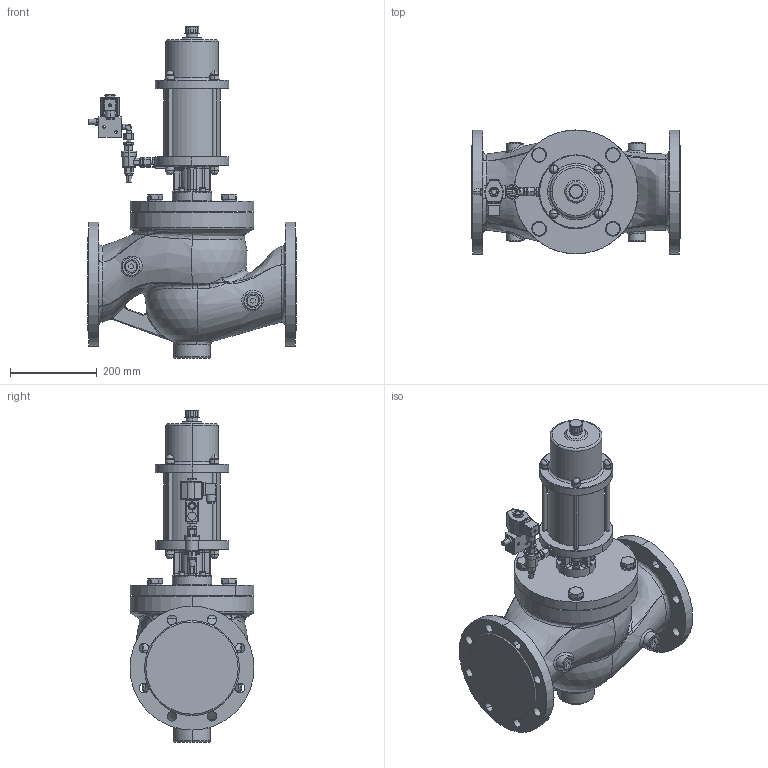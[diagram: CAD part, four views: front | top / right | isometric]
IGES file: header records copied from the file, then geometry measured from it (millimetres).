
Global section: file name: No Iges File Name specified; native system: AutoDesk Inventor R12.0; preprocessor: AutoDesk Inventor Iges Exporter R12.0; date: 20100517.130625; units: millimetre
Bounding box: 480 x 285 x 763.55 mm (x, y, z)
Volume: 27636808.7 mm3; surface area: 1073028.5 mm2
Topology: 2 solids, 2 shells, 1353 faces, 3408 edges, 2095 vertices
Faces by surface type: plane 504, cylinder 278, bspline 274, cone 127, revolution 95, torus 40, sphere 35
